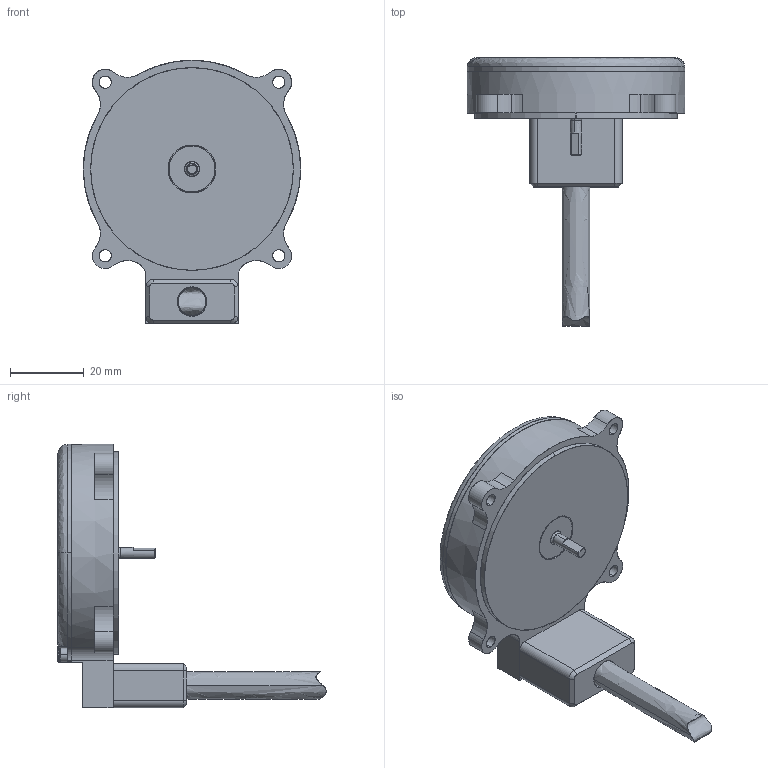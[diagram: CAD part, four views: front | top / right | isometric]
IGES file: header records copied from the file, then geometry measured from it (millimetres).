
Start section: SolidWorks IGES file using analytic representation for surfaces
Global section: file name: C:\Zettlex Data\Mechanical Drawings\1615\58mm Screw Mount 3.000mm Solid AFL1 Rev 1-0.IGS; native system: SolidWorks 2017; preprocessor: SolidWorks 2017; author: Istvan; date: 180126.103223; units: millimetre
Bounding box: 59 x 72.83 x 71.5 mm (x, y, z)
Surface area: 19020.3 mm2 (no closed solid volume)
Topology: 0 solids, 0 shells, 460 faces, 5840 edges, 5832 vertices
Faces by surface type: bspline 321, revolution 139
